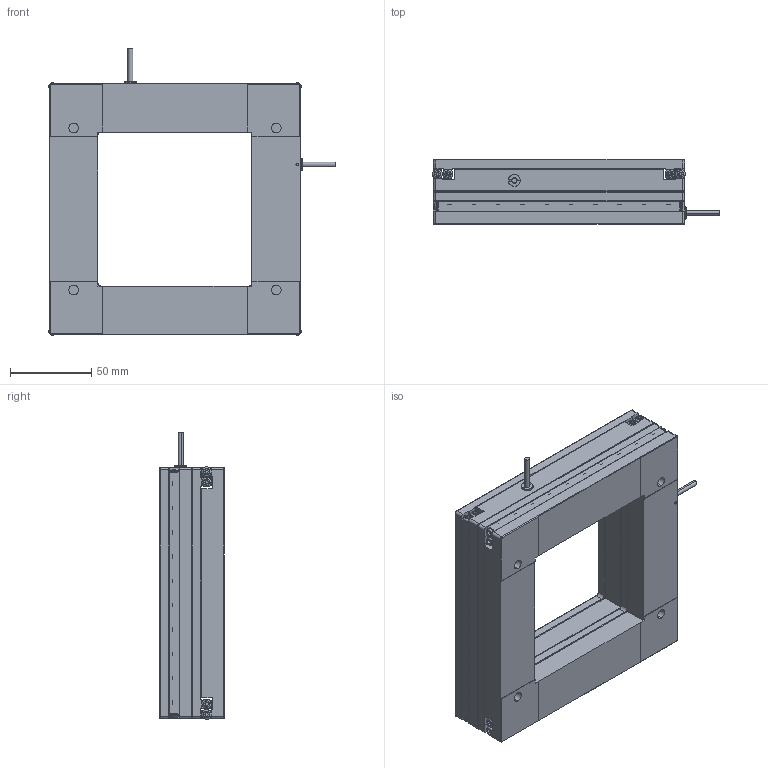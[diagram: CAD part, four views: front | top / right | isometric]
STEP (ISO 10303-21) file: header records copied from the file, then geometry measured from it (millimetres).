
FILE_DESCRIPTION (( 'STEP AP203' ), '1' );
FILE_NAME ('N52.24.03.22潠趙-媼峎.STEP', '2024-03-22T00:37:41', ( 'User' ), ( 'China' ), 'SwSTEP 2.0', 'SolidWorks 2016', '' );
FILE_SCHEMA (( 'CONFIG_CONTROL_DESIGN' ));
Length unit declared in the file: millimetre
Products named in the file (2): N52.24.03.22潠趙-媼峎; N52.24.03.22潠趙
Assembly tree (2 placements, depth 2):
  N52.24.03.22潠趙-媼峎
    N52.24.03.22潠趙  x2
Bounding box: 176.95 x 40 x 176.95 mm (x, y, z)
Surface area: 174658.8 mm2 (no closed solid volume)
Topology: 0 solids, 52 shells, 746 faces, 2170 edges, 1518 vertices
Faces by surface type: plane 394, cylinder 276, cone 44, torus 32
Entity records: 12814 total; most frequent: CARTESIAN_POINT 2306, DIRECTION 2266, ORIENTED_EDGE 1939, EDGE_CURVE 1085, AXIS2_PLACEMENT_3D 819, VERTEX_POINT 759, LINE 628, VECTOR 628
